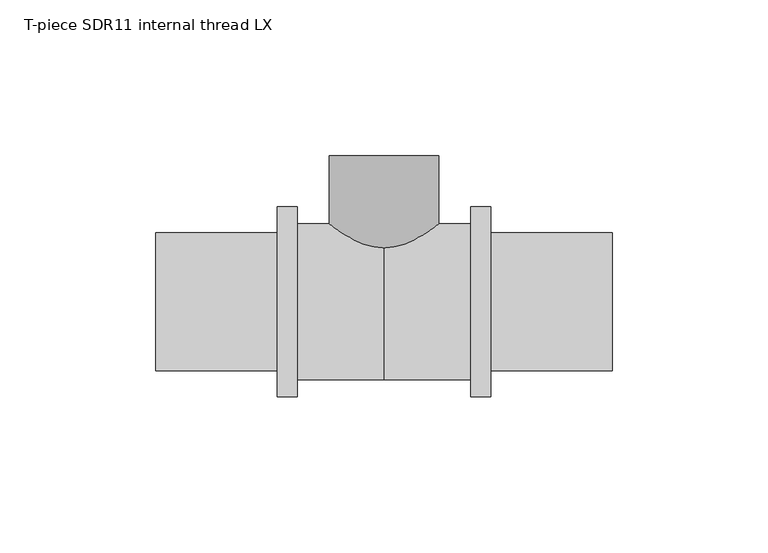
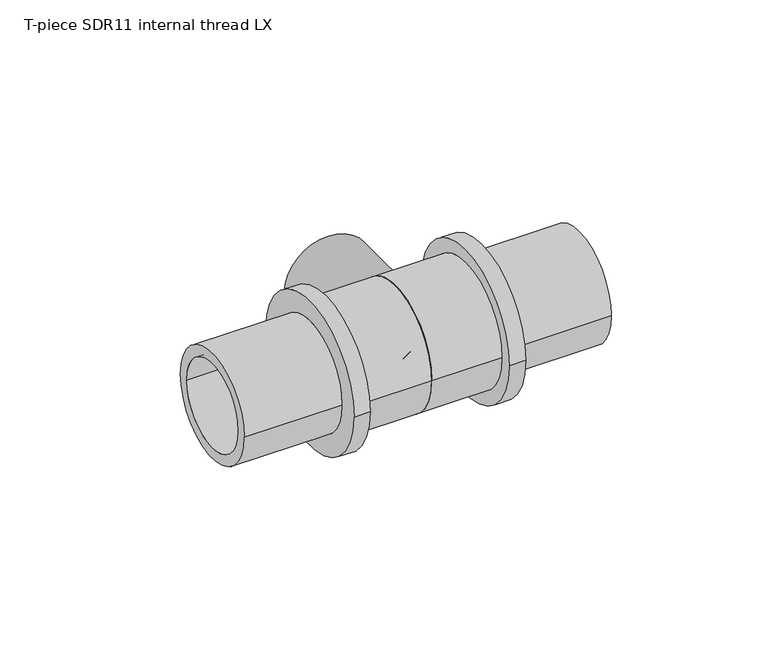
"""IFC4 building model written with IfcOpenShell, lengths in millimetres: pipe fitting geometry, T-piece SDR11 internal thread LX : T-piece LX SDR11 internal LX."""

from ifc_helpers import new_model, si_unit, point, frame, origin, place, context, project, spatial, polyline, circle_curve, ellipse_curve, trimmed, source, transform, mapped, element, save
from ifc_brep_helpers import plane_surface, cylinder_surface, revolved_surface, advanced_brep


def t_piece_sdr11_internal_thread_lx_2177e229(model_context):
    return source(origin(), model_context, "Body", "AdvancedBrep", [
        advanced_brep(
        [(12.6, 12.1, 0.0), (-12.6, 12.1, 0.0), (-12.6, 46.9, 0.0), (12.6, 46.9, 0.0), (0.5, 0.0, 0.0), (-0.5, 0.0, 0.0), (16.7683856, 9.3387391, 0.0), (-16.7683856, 9.3387391, 0.0), (-7.4296465, 0.0, 0.0), (7.4296465, 0.0, 0.0), (17.5, 11.1050126, 0.0), (-17.5, 11.1050126, 0.0), (17.5, 46.9, 0.0), (-17.5, 46.9, 0.0)],
        [
            (0, 1, circle_curve(frame((0.0, 12.1, 0.0), z_axis=(0.0, -1.0, 0.0), x_axis=(-1.0, 0.0, 0.0)), 12.6)),
            (1, 2),
            (2, 3, circle_curve(frame((0.0, 46.9, 0.0), z_axis=(0.0, 1.0, 0.0), x_axis=(-1.0, 0.0, 0.0)), 12.6)),
            (3, 0),
            (4, 5, circle_curve(frame((0.0, 0.0, 0.0), z_axis=(0.0, -1.0, 0.0), x_axis=(-1.0, 0.0, 0.0)), 0.5)),
            (5, 1),
            (0, 4),
            (6, 7, circle_curve(frame((0.0, 9.3387391, 0.0), z_axis=(0.0, -1.0, 0.0), x_axis=(-1.0, 0.0, 0.0)), 16.7683856)),
            (7, 8),
            (8, 9, circle_curve(frame((0.0, 0.0, 0.0), z_axis=(0.0, 1.0, 0.0), x_axis=(-1.0, 0.0, 0.0)), 7.4296465)),
            (9, 6),
            (10, 11, circle_curve(frame((0.0, 11.1050126, 0.0), z_axis=(0.0, -1.0, 0.0), x_axis=(-1.0, 0.0, 0.0)), 17.5)),
            (11, 7, circle_curve(frame((-12.6, 12.1, 0.0), z_axis=(0.0, 0.0, 1.0), x_axis=(0.0, 1.0, 0.0)), 5.0)),
            (6, 10, circle_curve(frame((12.6, 12.1, 0.0), z_axis=(0.0, 0.0, 1.0), x_axis=(0.0, 1.0, 0.0)), 5.0)),
            (12, 13, circle_curve(frame((0.0, 46.9, 0.0), z_axis=(0.0, -1.0, 0.0), x_axis=(-1.0, 0.0, 0.0)), 17.5)),
            (13, 11),
            (10, 12),
            (12, 13, circle_curve(frame((0.0, 46.9, 0.0), z_axis=(0.0, 1.0, 0.0), x_axis=(1.0, 0.0, 0.0)), 17.5)),
            (2, 3, circle_curve(frame((0.0, 46.9, 0.0), z_axis=(0.0, -1.0, 0.0), x_axis=(1.0, 0.0, 0.0)), 12.6)),
            (1, 0, circle_curve(frame((0.0, 12.1, 0.0), z_axis=(0.0, -1.0, 0.0), x_axis=(1.0, 0.0, 0.0)), 12.6)),
            (5, 4, circle_curve(frame((0.0, 0.0, 0.0), z_axis=(0.0, -1.0, 0.0), x_axis=(1.0, 0.0, 0.0)), 0.5)),
            (8, 9, circle_curve(frame((0.0, 0.0, 0.0), z_axis=(0.0, -1.0, 0.0), x_axis=(1.0, 0.0, 0.0)), 7.4296465)),
            (7, 6, circle_curve(frame((0.0, 9.3387391, 0.0), z_axis=(0.0, -1.0, 0.0), x_axis=(1.0, 0.0, 0.0)), 16.7683856)),
            (11, 10, circle_curve(frame((0.0, 11.1050126, 0.0), z_axis=(0.0, -1.0, 0.0), x_axis=(1.0, 0.0, 0.0)), 17.5)),
        ],
        [
            revolved_surface(polyline([(-12.6, 46.9, 0.0), (-12.6, 12.1, 0.0)]), (0.0, 0.0, 0.0), (0.0, 1.0, 0.0)),
            revolved_surface(polyline([(-12.6, 12.1, 0.0), (-0.5, 0.0, 0.0)]), (0.0, 0.0, 0.0), (0.0, 1.0, 0.0)),
            revolved_surface(polyline([(-7.4296465, 0.0, 0.0), (-16.7683856, 9.3387391, 0.0)]), (0.0, 0.0, 0.0), (0.0, 1.0, 0.0)),
            revolved_surface(trimmed(ellipse_curve(frame((-12.6, 12.1, 0.0), z_axis=(0.0, 0.0, -1.0), x_axis=(0.0, 1.0, 0.0)), 5.0, 5.0), [point((-16.7683856, 9.3387391, 0.0))], [point((-17.5, 11.1050126, 0.0))], True, "CARTESIAN"), (0.0, 0.0, 0.0), (0.0, 1.0, 0.0)),
            cylinder_surface(frame((0.0, 0.0, 0.0), z_axis=(0.0, 1.0, 0.0), x_axis=(-1.0, 0.0, 0.0)), 17.5),
            plane_surface(frame((0.0, 46.9, 0.0), z_axis=(0.0, 1.0, 0.0), x_axis=(1.0, 0.0, 0.0))),
            revolved_surface(polyline([(12.6, 46.9, 0.0), (12.6, 12.1, 0.0)]), (0.0, 0.0, 0.0), (0.0, 1.0, 0.0)),
            revolved_surface(polyline([(12.6, 12.1, 0.0), (0.5, 0.0, 0.0)]), (0.0, 0.0, 0.0), (0.0, 1.0, 0.0)),
            plane_surface(frame((0.0, 0.0, 0.0), z_axis=(0.0, -1.0, 0.0), x_axis=(1.0, 0.0, 0.0))),
            revolved_surface(polyline([(7.4296465, 0.0, 0.0), (16.7683856, 9.3387391, 0.0)]), (0.0, 0.0, 0.0), (0.0, 1.0, 0.0)),
            revolved_surface(trimmed(ellipse_curve(frame((12.6, 12.1, 0.0), z_axis=(0.0, 0.0, 1.0), x_axis=(0.0, 1.0, 0.0)), 5.0, 5.0), [point((16.7683856, 9.3387391, 0.0))], [point((17.5, 11.1050126, 0.0))], True, "CARTESIAN"), (0.0, 0.0, 0.0), (0.0, 1.0, 0.0)),
            cylinder_surface(frame((0.0, 0.0, 0.0), z_axis=(0.0, 1.0, 0.0), x_axis=(1.0, 0.0, 0.0)), 17.5),
        ],
        [
            (0, [[1, 2, 3, 4]]),
            (1, [[5, 6, -1, 7]]),
            (2, [[8, 9, 10, 11]]),
            (3, [[12, 13, -8, 14]]),
            (4, [[15, 16, -12, 17]]),
            (5, [[18, -15], [19, -3]]),
            (6, [[20, -4, -19, -2]]),
            (7, [[21, -7, -20, -6]]),
            (8, [[22, -10], [-21, -5]]),
            (9, [[23, -11, -22, -9]]),
            (10, [[24, -14, -23, -13]]),
            (11, [[-18, -17, -24, -16]]),
        ],
    ),
        advanced_brep(
        [(34.3, 30.5, 0.0), (34.3, -30.5, 0.0), (27.9, -30.5, 0.0), (27.9, 30.5, 0.0), (73.3, 22.15, 0.0), (73.3, -22.15, 0.0), (34.3, -22.15, 0.0), (34.3, 22.15, 0.0), (0.0, 17.75, 0.0), (0.0, -17.75, 0.0), (73.3, -17.75, 0.0), (73.3, 17.75, 0.0), (27.9, 25.0, 0.0), (27.9, -25.0, 0.0), (0.0, -25.0, 0.0), (0.0, 25.0, 0.0)],
        [
            (0, 1, circle_curve(frame((34.3, 0.0, 0.0), z_axis=(-1.0, 0.0, 0.0), x_axis=(0.0, -1.0, 0.0)), 30.5)),
            (1, 2),
            (2, 3, circle_curve(frame((27.9, 0.0, 0.0), z_axis=(1.0, 0.0, 0.0), x_axis=(0.0, -1.0, 0.0)), 30.5)),
            (3, 0),
            (4, 5, circle_curve(frame((73.3, 0.0, 0.0), z_axis=(-1.0, 0.0, 0.0), x_axis=(0.0, -1.0, 0.0)), 22.15)),
            (5, 6),
            (6, 7, circle_curve(frame((34.3, 0.0, 0.0), z_axis=(1.0, 0.0, 0.0), x_axis=(0.0, -1.0, 0.0)), 22.15)),
            (7, 4),
            (8, 9, circle_curve(frame((0.0, 0.0, 0.0), z_axis=(-1.0, 0.0, 0.0), x_axis=(0.0, -1.0, 0.0)), 17.75)),
            (9, 10),
            (10, 11, circle_curve(frame((73.3, 0.0, 0.0), z_axis=(1.0, 0.0, 0.0), x_axis=(0.0, -1.0, 0.0)), 17.75)),
            (11, 8),
            (12, 13, circle_curve(frame((27.9, 0.0, 0.0), z_axis=(-1.0, 0.0, 0.0), x_axis=(0.0, -1.0, 0.0)), 25.0)),
            (13, 14),
            (14, 15, circle_curve(frame((0.0, 0.0, 0.0), z_axis=(1.0, 0.0, 0.0), x_axis=(0.0, -1.0, 0.0)), 25.0)),
            (15, 12),
            (1, 0, circle_curve(frame((34.3, 0.0, 0.0), z_axis=(-1.0, 0.0, 0.0), x_axis=(0.0, 1.0, 0.0)), 30.5)),
            (3, 2, circle_curve(frame((27.9, 0.0, 0.0), z_axis=(1.0, 0.0, 0.0), x_axis=(0.0, 1.0, 0.0)), 30.5)),
            (6, 7, circle_curve(frame((34.3, 0.0, 0.0), z_axis=(-1.0, 0.0, 0.0), x_axis=(0.0, 1.0, 0.0)), 22.15)),
            (5, 4, circle_curve(frame((73.3, 0.0, 0.0), z_axis=(-1.0, 0.0, 0.0), x_axis=(0.0, 1.0, 0.0)), 22.15)),
            (10, 11, circle_curve(frame((73.3, 0.0, 0.0), z_axis=(-1.0, 0.0, 0.0), x_axis=(0.0, 1.0, 0.0)), 17.75)),
            (9, 8, circle_curve(frame((0.0, 0.0, 0.0), z_axis=(-1.0, 0.0, 0.0), x_axis=(0.0, 1.0, 0.0)), 17.75)),
            (14, 15, circle_curve(frame((0.0, 0.0, 0.0), z_axis=(-1.0, 0.0, 0.0), x_axis=(0.0, 1.0, 0.0)), 25.0)),
            (13, 12, circle_curve(frame((27.9, 0.0, 0.0), z_axis=(-1.0, 0.0, 0.0), x_axis=(0.0, 1.0, 0.0)), 25.0)),
        ],
        [
            cylinder_surface(frame((0.0, 0.0, 0.0), z_axis=(1.0, 0.0, 0.0), x_axis=(0.0, -1.0, 0.0)), 30.5),
            cylinder_surface(frame((0.0, 0.0, 0.0), z_axis=(1.0, 0.0, 0.0), x_axis=(0.0, -1.0, 0.0)), 22.15),
            revolved_surface(polyline([(73.3, -17.75, 0.0), (0.0, -17.75, 0.0)]), (0.0, 0.0, 0.0), (1.0, 0.0, 0.0)),
            cylinder_surface(frame((0.0, 0.0, 0.0), z_axis=(1.0, 0.0, 0.0), x_axis=(0.0, -1.0, 0.0)), 25.0),
            cylinder_surface(frame((0.0, 0.0, 0.0), z_axis=(1.0, 0.0, 0.0), x_axis=(0.0, 1.0, 0.0)), 30.5),
            plane_surface(frame((34.3, 0.0, 0.0), z_axis=(1.0, 0.0, 0.0), x_axis=(0.0, 1.0, 0.0))),
            cylinder_surface(frame((0.0, 0.0, 0.0), z_axis=(1.0, 0.0, 0.0), x_axis=(0.0, 1.0, 0.0)), 22.15),
            plane_surface(frame((73.3, 0.0, 0.0), z_axis=(1.0, 0.0, 0.0), x_axis=(0.0, 1.0, 0.0))),
            revolved_surface(polyline([(73.3, 17.75, 0.0), (0.0, 17.75, 0.0)]), (0.0, 0.0, 0.0), (1.0, 0.0, 0.0)),
            plane_surface(frame((0.0, 0.0, 0.0), z_axis=(-1.0, 0.0, 0.0), x_axis=(0.0, 1.0, 0.0))),
            cylinder_surface(frame((0.0, 0.0, 0.0), z_axis=(1.0, 0.0, 0.0), x_axis=(0.0, 1.0, 0.0)), 25.0),
            plane_surface(frame((27.9, 0.0, 0.0), z_axis=(-1.0, 0.0, 0.0), x_axis=(0.0, 1.0, 0.0))),
        ],
        [
            (0, [[1, 2, 3, 4]]),
            (1, [[5, 6, 7, 8]]),
            (2, [[9, 10, 11, 12]]),
            (3, [[13, 14, 15, 16]]),
            (4, [[17, -4, 18, -2]]),
            (5, [[-17, -1], [19, -7]]),
            (6, [[20, -8, -19, -6]]),
            (7, [[-20, -5], [21, -11]]),
            (8, [[22, -12, -21, -10]]),
            (9, [[23, -15], [-22, -9]]),
            (10, [[24, -16, -23, -14]]),
            (11, [[-18, -3], [-24, -13]]),
        ],
    ),
        advanced_brep(
        [(0.0, 25.0, 0.0), (0.0, -25.0, 0.0), (-27.9, -25.0, 0.0), (-27.9, 25.0, 0.0), (-73.3, 17.75, 0.0), (-73.3, -17.75, 0.0), (0.0, -17.75, 0.0), (0.0, 17.75, 0.0), (-34.3, 22.15, 0.0), (-34.3, -22.15, 0.0), (-73.3, -22.15, 0.0), (-73.3, 22.15, 0.0), (-27.9, 30.5, 0.0), (-27.9, -30.5, 0.0), (-34.3, -30.5, 0.0), (-34.3, 30.5, 0.0)],
        [
            (0, 1, circle_curve(frame((0.0, 0.0, 0.0), z_axis=(-1.0, 0.0, 0.0), x_axis=(0.0, -1.0, 0.0)), 25.0)),
            (1, 2),
            (2, 3, circle_curve(frame((-27.9, 0.0, 0.0), z_axis=(1.0, 0.0, 0.0), x_axis=(0.0, -1.0, 0.0)), 25.0)),
            (3, 0),
            (4, 5, circle_curve(frame((-73.3, 0.0, 0.0), z_axis=(-1.0, 0.0, 0.0), x_axis=(0.0, -1.0, 0.0)), 17.75)),
            (5, 6),
            (6, 7, circle_curve(frame((0.0, 0.0, 0.0), z_axis=(1.0, 0.0, 0.0), x_axis=(0.0, -1.0, 0.0)), 17.75)),
            (7, 4),
            (8, 9, circle_curve(frame((-34.3, 0.0, 0.0), z_axis=(-1.0, 0.0, 0.0), x_axis=(0.0, -1.0, 0.0)), 22.15)),
            (9, 10),
            (10, 11, circle_curve(frame((-73.3, 0.0, 0.0), z_axis=(1.0, 0.0, 0.0), x_axis=(0.0, -1.0, 0.0)), 22.15)),
            (11, 8),
            (12, 13, circle_curve(frame((-27.9, 0.0, 0.0), z_axis=(-1.0, 0.0, 0.0), x_axis=(0.0, -1.0, 0.0)), 30.5)),
            (13, 14),
            (14, 15, circle_curve(frame((-34.3, 0.0, 0.0), z_axis=(1.0, 0.0, 0.0), x_axis=(0.0, -1.0, 0.0)), 30.5)),
            (15, 12),
            (12, 13, circle_curve(frame((-27.9, 0.0, 0.0), z_axis=(1.0, 0.0, 0.0), x_axis=(0.0, 1.0, 0.0)), 30.5)),
            (2, 3, circle_curve(frame((-27.9, 0.0, 0.0), z_axis=(-1.0, 0.0, 0.0), x_axis=(0.0, 1.0, 0.0)), 25.0)),
            (1, 0, circle_curve(frame((0.0, 0.0, 0.0), z_axis=(-1.0, 0.0, 0.0), x_axis=(0.0, 1.0, 0.0)), 25.0)),
            (6, 7, circle_curve(frame((0.0, 0.0, 0.0), z_axis=(-1.0, 0.0, 0.0), x_axis=(0.0, 1.0, 0.0)), 17.75)),
            (5, 4, circle_curve(frame((-73.3, 0.0, 0.0), z_axis=(-1.0, 0.0, 0.0), x_axis=(0.0, 1.0, 0.0)), 17.75)),
            (10, 11, circle_curve(frame((-73.3, 0.0, 0.0), z_axis=(-1.0, 0.0, 0.0), x_axis=(0.0, 1.0, 0.0)), 22.15)),
            (9, 8, circle_curve(frame((-34.3, 0.0, 0.0), z_axis=(-1.0, 0.0, 0.0), x_axis=(0.0, 1.0, 0.0)), 22.15)),
            (14, 15, circle_curve(frame((-34.3, 0.0, 0.0), z_axis=(-1.0, 0.0, 0.0), x_axis=(0.0, 1.0, 0.0)), 30.5)),
        ],
        [
            cylinder_surface(frame((0.0, 0.0, 0.0), z_axis=(1.0, 0.0, 0.0), x_axis=(0.0, -1.0, 0.0)), 25.0),
            revolved_surface(polyline([(0.0, -17.75, 0.0), (-73.3, -17.75, 0.0)]), (0.0, 0.0, 0.0), (1.0, 0.0, 0.0)),
            cylinder_surface(frame((0.0, 0.0, 0.0), z_axis=(1.0, 0.0, 0.0), x_axis=(0.0, -1.0, 0.0)), 22.15),
            cylinder_surface(frame((0.0, 0.0, 0.0), z_axis=(1.0, 0.0, 0.0), x_axis=(0.0, -1.0, 0.0)), 30.5),
            plane_surface(frame((-27.9, 0.0, 0.0), z_axis=(1.0, 0.0, 0.0), x_axis=(0.0, 1.0, 0.0))),
            cylinder_surface(frame((0.0, 0.0, 0.0), z_axis=(1.0, 0.0, 0.0), x_axis=(0.0, 1.0, 0.0)), 25.0),
            plane_surface(frame((0.0, 0.0, 0.0), z_axis=(1.0, 0.0, 0.0), x_axis=(0.0, 1.0, 0.0))),
            revolved_surface(polyline([(0.0, 17.75, 0.0), (-73.3, 17.75, 0.0)]), (0.0, 0.0, 0.0), (1.0, 0.0, 0.0)),
            plane_surface(frame((-73.3, 0.0, 0.0), z_axis=(-1.0, 0.0, 0.0), x_axis=(0.0, 1.0, 0.0))),
            cylinder_surface(frame((0.0, 0.0, 0.0), z_axis=(1.0, 0.0, 0.0), x_axis=(0.0, 1.0, 0.0)), 22.15),
            plane_surface(frame((-34.3, 0.0, 0.0), z_axis=(-1.0, 0.0, 0.0), x_axis=(0.0, 1.0, 0.0))),
            cylinder_surface(frame((0.0, 0.0, 0.0), z_axis=(1.0, 0.0, 0.0), x_axis=(0.0, 1.0, 0.0)), 30.5),
        ],
        [
            (0, [[1, 2, 3, 4]]),
            (1, [[5, 6, 7, 8]]),
            (2, [[9, 10, 11, 12]]),
            (3, [[13, 14, 15, 16]]),
            (4, [[17, -13], [18, -3]]),
            (5, [[19, -4, -18, -2]]),
            (6, [[-19, -1], [20, -7]]),
            (7, [[21, -8, -20, -6]]),
            (8, [[22, -11], [-21, -5]]),
            (9, [[23, -12, -22, -10]]),
            (10, [[24, -15], [-23, -9]]),
            (11, [[-17, -16, -24, -14]]),
        ],
    ),
    ])


if __name__ == "__main__":
    model = new_model("IFC4")
    model_context = context("Model", 3, world=origin())
    ifc_project = project(units=[si_unit("LENGTHUNIT", "METRE", prefix="MILLI")], contexts=[model_context])
    site = spatial("IfcSite", under=ifc_project)
    building = spatial("IfcBuilding", under=site)
    placement = place(None, origin())
    t_piece_sdr11_internal_thread_lx_shape = t_piece_sdr11_internal_thread_lx_2177e229(model_context)
    element("IfcPipeFitting", 1, ObjectType="T-piece SDR11 internal thread LX : T-piece LX SDR11 internal LX", at=placement, inside=building, context=model_context, shape_type="MappedRepresentation", body=[
        mapped(t_piece_sdr11_internal_thread_lx_shape, transform((0.0, 0.0, 0.0), x_axis=(1.0, 0.0, 0.0), y_axis=(0.0, 1.0, 0.0), z_axis=(0.0, 0.0, 1.0))),
    ])
    save(model, "model.ifc")
